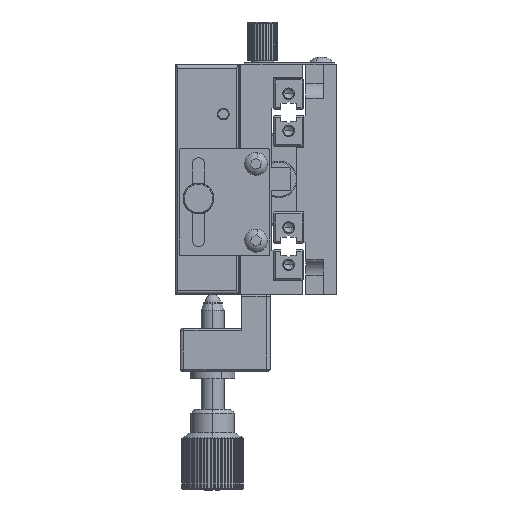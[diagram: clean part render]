
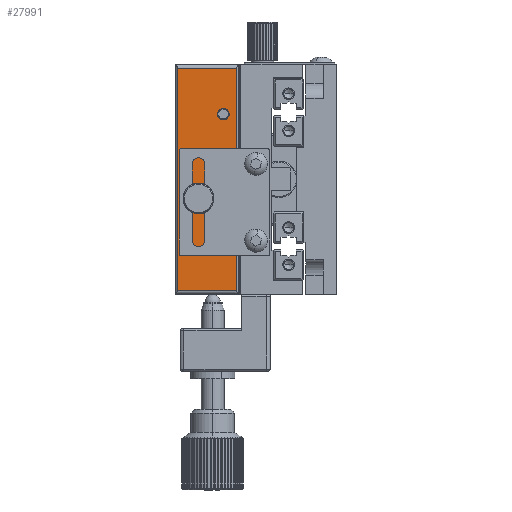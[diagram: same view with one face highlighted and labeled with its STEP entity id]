
A CAD part, left-side view. The second image highlights one B-rep face of the part: STEP entity #27991.
In plain terms, the highlighted planar face has unit normal (-1, 0, 0) as drawn and (1, 0, 0) by its records, which use the part's own axes.
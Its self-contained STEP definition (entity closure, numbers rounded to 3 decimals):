
#132 = CARTESIAN_POINT ( 'NONE',  ( 30., 2.25, 3.5 ) ) ;
#603 = ORIENTED_EDGE ( 'NONE', *, *, #7842, .F. ) ;
#794 = DIRECTION ( 'NONE',  ( 1., 0., 0. ) ) ;
#965 = DIRECTION ( 'NONE',  ( 0., 0., -1. ) ) ;
#1112 = FACE_BOUND ( 'NONE', #23111, .T. ) ;
#1546 = CARTESIAN_POINT ( 'NONE',  ( 30., -4.25, 0. ) ) ;
#2418 = EDGE_CURVE ( 'NONE', #28391, #23810, #28718, .T. ) ;
#3389 = CARTESIAN_POINT ( 'NONE',  ( 30., -4.25, -18.5 ) ) ;
#3614 = DIRECTION ( 'NONE',  ( 1., 0., 0. ) ) ;
#3763 = CARTESIAN_POINT ( 'NONE',  ( 30., -4.25, -17. ) ) ;
#4576 = VECTOR ( 'NONE', #5870, 1000. ) ;
#5021 = VERTEX_POINT ( 'NONE', #132 ) ;
#5236 = DIRECTION ( 'NONE',  ( 0., 0., -1. ) ) ;
#5611 = CARTESIAN_POINT ( 'NONE',  ( 30., 7.75, 29. ) ) ;
#5870 = DIRECTION ( 'NONE',  ( 0., 1., 0. ) ) ;
#5888 = CARTESIAN_POINT ( 'NONE',  ( 30., -4.25, 18.5 ) ) ;
#5904 = ORIENTED_EDGE ( 'NONE', *, *, #15364, .F. ) ;
#6019 = CARTESIAN_POINT ( 'NONE',  ( 30., -4.25, 15.5 ) ) ;
#6283 = DIRECTION ( 'NONE',  ( 0., -1., 0. ) ) ;
#6312 = DIRECTION ( 'NONE',  ( 1., 0., 0. ) ) ;
#6500 = VERTEX_POINT ( 'NONE', #21300 ) ;
#6884 = CARTESIAN_POINT ( 'NONE',  ( 30., -4.25, 1.5 ) ) ;
#7404 = DIRECTION ( 'NONE',  ( 0., 0., -1. ) ) ;
#7407 = ORIENTED_EDGE ( 'NONE', *, *, #15199, .T. ) ;
#7449 = AXIS2_PLACEMENT_3D ( 'NONE', #8776, #18914, #29071 ) ;
#7842 = EDGE_CURVE ( 'NONE', #26930, #5021, #29079, .T. ) ;
#8312 = ORIENTED_EDGE ( 'NONE', *, *, #18389, .F. ) ;
#8331 = AXIS2_PLACEMENT_3D ( 'NONE', #26415, #3614, #13777 ) ;
#8776 = CARTESIAN_POINT ( 'NONE',  ( 30., 0., 30. ) ) ;
#9077 = CARTESIAN_POINT ( 'NONE',  ( 30., -4.25, -15.5 ) ) ;
#9197 = VERTEX_POINT ( 'NONE', #30594 ) ;
#9531 = VERTEX_POINT ( 'NONE', #27412 ) ;
#10505 = AXIS2_PLACEMENT_3D ( 'NONE', #23570, #794, #10941 ) ;
#10516 = ORIENTED_EDGE ( 'NONE', *, *, #2418, .F. ) ;
#10709 = EDGE_CURVE ( 'NONE', #9531, #26437, #24852, .T. ) ;
#10941 = DIRECTION ( 'NONE',  ( 0., 0., -1. ) ) ;
#11270 = FACE_BOUND ( 'NONE', #31012, .T. ) ;
#11473 = CARTESIAN_POINT ( 'NONE',  ( 30., -4.25, 17. ) ) ;
#11699 = DIRECTION ( 'NONE',  ( 1., 0., 0. ) ) ;
#12399 = CIRCLE ( 'NONE', #30982, 1.5 ) ;
#12550 = AXIS2_PLACEMENT_3D ( 'NONE', #17881, #28035, #5236 ) ;
#13544 = CIRCLE ( 'NONE', #32133, 1.5 ) ;
#13613 = CARTESIAN_POINT ( 'NONE',  ( 30., 2.25, 5. ) ) ;
#13766 = FACE_BOUND ( 'NONE', #20127, .T. ) ;
#13777 = DIRECTION ( 'NONE',  ( 0., 0., -1. ) ) ;
#13927 = DIRECTION ( 'NONE',  ( 1., 0., 0. ) ) ;
#14176 = AXIS2_PLACEMENT_3D ( 'NONE', #13613, #23737, #965 ) ;
#14380 = AXIS2_PLACEMENT_3D ( 'NONE', #11473, #21623, #31764 ) ;
#14748 = AXIS2_PLACEMENT_3D ( 'NONE', #29117, #6312, #16451 ) ;
#14986 = VERTEX_POINT ( 'NONE', #32421 ) ;
#15199 = EDGE_CURVE ( 'NONE', #31751, #9197, #28407, .T. ) ;
#15364 = EDGE_CURVE ( 'NONE', #24735, #21484, #12399, .T. ) ;
#15733 = VECTOR ( 'NONE', #6283, 1000. ) ;
#15766 = DIRECTION ( 'NONE',  ( 0., 0., 1. ) ) ;
#16451 = DIRECTION ( 'NONE',  ( 0., 0., -1. ) ) ;
#17039 = VECTOR ( 'NONE', #7404, 1000. ) ;
#17269 = ORIENTED_EDGE ( 'NONE', *, *, #20066, .F. ) ;
#17881 = CARTESIAN_POINT ( 'NONE',  ( 30., -4.25, 17. ) ) ;
#18075 = LINE ( 'NONE', #28232, #4576 ) ;
#18389 = EDGE_CURVE ( 'NONE', #5021, #26930, #28513, .T. ) ;
#18404 = EDGE_CURVE ( 'NONE', #21484, #24735, #22676, .T. ) ;
#18914 = DIRECTION ( 'NONE',  ( -1., 0., 0. ) ) ;
#18926 = LINE ( 'NONE', #29084, #15733 ) ;
#19856 = CARTESIAN_POINT ( 'NONE',  ( 30., 2.25, 6.5 ) ) ;
#20041 = LINE ( 'NONE', #30207, #17039 ) ;
#20066 = EDGE_CURVE ( 'NONE', #23810, #28391, #26895, .T. ) ;
#20127 = EDGE_LOOP ( 'NONE', ( #8312, #603 ) ) ;
#20237 = ORIENTED_EDGE ( 'NONE', *, *, #24906, .T. ) ;
#20310 = EDGE_CURVE ( 'NONE', #26437, #9531, #13544, .T. ) ;
#21300 = CARTESIAN_POINT ( 'NONE',  ( 30., -7.75, -29. ) ) ;
#21417 = FACE_OUTER_BOUND ( 'NONE', #32331, .T. ) ;
#21418 = VECTOR ( 'NONE', #15766, 1000. ) ;
#21484 = VERTEX_POINT ( 'NONE', #3389 ) ;
#21521 = ORIENTED_EDGE ( 'NONE', *, *, #10709, .F. ) ;
#21623 = DIRECTION ( 'NONE',  ( 1., 0., 0. ) ) ;
#21852 = DIRECTION ( 'NONE',  ( 0., 0., -1. ) ) ;
#22676 = CIRCLE ( 'NONE', #8331, 1.5 ) ;
#22954 = EDGE_CURVE ( 'NONE', #9197, #14986, #18926, .T. ) ;
#23111 = EDGE_LOOP ( 'NONE', ( #21521, #32160 ) ) ;
#23570 = CARTESIAN_POINT ( 'NONE',  ( 30., -4.25, 0. ) ) ;
#23737 = DIRECTION ( 'NONE',  ( 1., 0., 0. ) ) ;
#23810 = VERTEX_POINT ( 'NONE', #6019 ) ;
#23885 = FACE_BOUND ( 'NONE', #32538, .T. ) ;
#24051 = DIRECTION ( 'NONE',  ( 0., 0., -1. ) ) ;
#24151 = ORIENTED_EDGE ( 'NONE', *, *, #32307, .T. ) ;
#24735 = VERTEX_POINT ( 'NONE', #9077 ) ;
#24852 = CIRCLE ( 'NONE', #10505, 1.5 ) ;
#24906 = EDGE_CURVE ( 'NONE', #14986, #6500, #20041, .T. ) ;
#26415 = CARTESIAN_POINT ( 'NONE',  ( 30., -4.25, -17. ) ) ;
#26437 = VERTEX_POINT ( 'NONE', #6884 ) ;
#26895 = CIRCLE ( 'NONE', #12550, 1.5 ) ;
#26930 = VERTEX_POINT ( 'NONE', #19856 ) ;
#27412 = CARTESIAN_POINT ( 'NONE',  ( 30., -4.25, -1.5 ) ) ;
#27620 = CARTESIAN_POINT ( 'NONE',  ( 30., 7.75, -29. ) ) ;
#27991 = ADVANCED_FACE ( 'NONE', ( #13766, #23885, #1112, #11270, #21417 ), #31553, .F. ) ;
#28034 = ORIENTED_EDGE ( 'NONE', *, *, #22954, .T. ) ;
#28035 = DIRECTION ( 'NONE',  ( 1., 0., 0. ) ) ;
#28232 = CARTESIAN_POINT ( 'NONE',  ( 30., 0., -29. ) ) ;
#28391 = VERTEX_POINT ( 'NONE', #5888 ) ;
#28407 = LINE ( 'NONE', #5611, #21418 ) ;
#28513 = CIRCLE ( 'NONE', #14176, 1.5 ) ;
#28718 = CIRCLE ( 'NONE', #14380, 1.5 ) ;
#29071 = DIRECTION ( 'NONE',  ( 0., 0., 1. ) ) ;
#29079 = CIRCLE ( 'NONE', #14748, 1.5 ) ;
#29084 = CARTESIAN_POINT ( 'NONE',  ( 30., -8.25, 29. ) ) ;
#29117 = CARTESIAN_POINT ( 'NONE',  ( 30., 2.25, 5. ) ) ;
#30207 = CARTESIAN_POINT ( 'NONE',  ( 30., -7.75, 30. ) ) ;
#30371 = ORIENTED_EDGE ( 'NONE', *, *, #18404, .F. ) ;
#30594 = CARTESIAN_POINT ( 'NONE',  ( 30., 7.75, 29. ) ) ;
#30982 = AXIS2_PLACEMENT_3D ( 'NONE', #3763, #13927, #24051 ) ;
#31012 = EDGE_LOOP ( 'NONE', ( #30371, #5904 ) ) ;
#31553 = PLANE ( 'NONE',  #7449 ) ;
#31751 = VERTEX_POINT ( 'NONE', #27620 ) ;
#31764 = DIRECTION ( 'NONE',  ( 0., 0., -1. ) ) ;
#32133 = AXIS2_PLACEMENT_3D ( 'NONE', #1546, #11699, #21852 ) ;
#32160 = ORIENTED_EDGE ( 'NONE', *, *, #20310, .F. ) ;
#32307 = EDGE_CURVE ( 'NONE', #6500, #31751, #18075, .T. ) ;
#32331 = EDGE_LOOP ( 'NONE', ( #24151, #7407, #28034, #20237 ) ) ;
#32421 = CARTESIAN_POINT ( 'NONE',  ( 30., -7.75, 29. ) ) ;
#32538 = EDGE_LOOP ( 'NONE', ( #17269, #10516 ) ) ;
